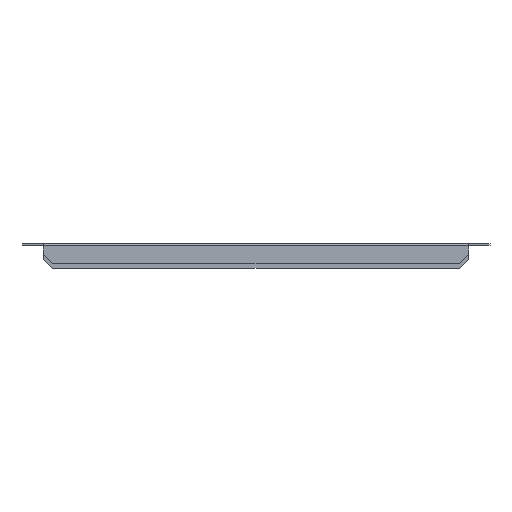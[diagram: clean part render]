
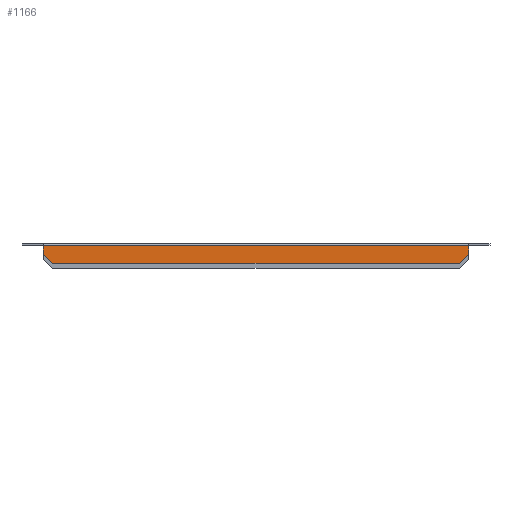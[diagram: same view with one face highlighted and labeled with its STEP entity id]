
A CAD part, front view. The second image highlights one B-rep face of the part: STEP entity #1166.
In plain terms, the highlighted planar face has unit normal (0, -1, 0).
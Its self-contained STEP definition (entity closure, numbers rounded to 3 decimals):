
#2 = CARTESIAN_POINT ( 'NONE',  ( 21.5, 0., -1.5 ) ) ;
#23 = VECTOR ( 'NONE', #1353, 1000. ) ;
#32 = CARTESIAN_POINT ( 'NONE',  ( 21.5, 0., -20. ) ) ;
#36 = CARTESIAN_POINT ( 'NONE',  ( 239.654, 0., -219.654 ) ) ;
#45 = CARTESIAN_POINT ( 'NONE',  ( 30.692, 0., -20. ) ) ;
#59 = AXIS2_PLACEMENT_3D ( 'NONE', #1340, #1442, #779 ) ;
#118 = ORIENTED_EDGE ( 'NONE', *, *, #762, .T. ) ;
#294 = ORIENTED_EDGE ( 'NONE', *, *, #727, .F. ) ;
#434 = LINE ( 'NONE', #1449, #23 ) ;
#543 = ORIENTED_EDGE ( 'NONE', *, *, #746, .T. ) ;
#550 = ORIENTED_EDGE ( 'NONE', *, *, #767, .T. ) ;
#587 = CARTESIAN_POINT ( 'NONE',  ( 448.5, 0., -10.808 ) ) ;
#615 = PLANE ( 'NONE',  #59 ) ;
#671 = DIRECTION ( 'NONE',  ( 0., 0., -1. ) ) ;
#721 = VECTOR ( 'NONE', #1478, 1000. ) ;
#727 = EDGE_CURVE ( 'NONE', #1025, #986, #434, .T. ) ;
#739 = EDGE_CURVE ( 'NONE', #1025, #1281, #816, .T. ) ;
#746 = EDGE_CURVE ( 'NONE', #1555, #986, #1644, .T. ) ;
#753 = EDGE_CURVE ( 'NONE', #1281, #797, #1334, .T. ) ;
#762 = EDGE_CURVE ( 'NONE', #797, #1329, #1280, .T. ) ;
#767 = EDGE_CURVE ( 'NONE', #1329, #1555, #1514, .T. ) ;
#774 = VECTOR ( 'NONE', #671, 1000. ) ;
#779 = DIRECTION ( 'NONE',  ( 0., 0., 1. ) ) ;
#797 = VERTEX_POINT ( 'NONE', #45 ) ;
#801 = CARTESIAN_POINT ( 'NONE',  ( 21.5, 0., -10.808 ) ) ;
#803 = CARTESIAN_POINT ( 'NONE',  ( 439.308, 0., -20. ) ) ;
#816 = LINE ( 'NONE', #2, #774 ) ;
#943 = DIRECTION ( 'NONE',  ( 1., 0., 0. ) ) ;
#982 = VECTOR ( 'NONE', #943, 1000. ) ;
#986 = VERTEX_POINT ( 'NONE', #1227 ) ;
#1025 = VERTEX_POINT ( 'NONE', #1535 ) ;
#1084 = FACE_OUTER_BOUND ( 'NONE', #1540, .T. ) ;
#1166 = ADVANCED_FACE ( 'NONE', ( #1084 ), #615, .F. ) ;
#1169 = DIRECTION ( 'NONE',  ( 0., 0., 1. ) ) ;
#1179 = DIRECTION ( 'NONE',  ( 0.707, 0., 0.707 ) ) ;
#1227 = CARTESIAN_POINT ( 'NONE',  ( 448.5, 0., -2.237 ) ) ;
#1229 = ORIENTED_EDGE ( 'NONE', *, *, #753, .T. ) ;
#1244 = VECTOR ( 'NONE', #1179, 1000. ) ;
#1280 = LINE ( 'NONE', #32, #982 ) ;
#1281 = VERTEX_POINT ( 'NONE', #801 ) ;
#1302 = ORIENTED_EDGE ( 'NONE', *, *, #739, .T. ) ;
#1329 = VERTEX_POINT ( 'NONE', #803 ) ;
#1334 = LINE ( 'NONE', #1383, #721 ) ;
#1340 = CARTESIAN_POINT ( 'NONE',  ( 21.5, 0., -1.5 ) ) ;
#1353 = DIRECTION ( 'NONE',  ( 1., 0., 0. ) ) ;
#1376 = CARTESIAN_POINT ( 'NONE',  ( 448.5, 0., -1.5 ) ) ;
#1383 = CARTESIAN_POINT ( 'NONE',  ( 16.846, 0., -6.154 ) ) ;
#1442 = DIRECTION ( 'NONE',  ( 0., 1., 0. ) ) ;
#1449 = CARTESIAN_POINT ( 'NONE',  ( 448.5, 0., -2.237 ) ) ;
#1478 = DIRECTION ( 'NONE',  ( 0.707, 0., -0.707 ) ) ;
#1514 = LINE ( 'NONE', #36, #1244 ) ;
#1535 = CARTESIAN_POINT ( 'NONE',  ( 21.5, 0., -2.237 ) ) ;
#1540 = EDGE_LOOP ( 'NONE', ( #294, #1302, #1229, #118, #550, #543 ) ) ;
#1555 = VERTEX_POINT ( 'NONE', #587 ) ;
#1614 = VECTOR ( 'NONE', #1169, 1000. ) ;
#1644 = LINE ( 'NONE', #1376, #1614 ) ;
